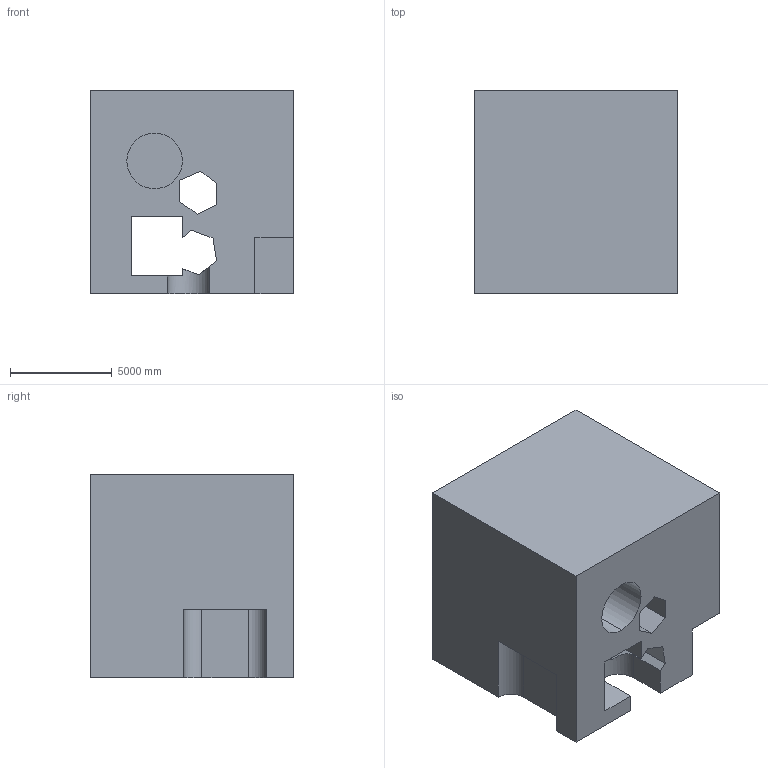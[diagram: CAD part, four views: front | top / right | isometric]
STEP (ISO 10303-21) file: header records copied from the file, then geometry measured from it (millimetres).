
FILE_DESCRIPTION (( 'STEP AP203' ), '1' );
FILE_NAME ('604.STEP', '2022-07-29T12:02:54', ( 'user' ), ( '' ), 'SwSTEP 2.0', 'SolidWorks 2021', '' );
FILE_SCHEMA (( 'CONFIG_CONTROL_DESIGN' ));
Length unit declared in the file: centimetre
Products named in the file (1): 604
Bounding box: 10000 x 10000 x 10000 mm (x, y, z)
Volume: 781931691290 mm3; surface area: 841433942.8 mm2
Topology: 1 solids, 1 shells, 35 faces, 99 edges, 66 vertices
Faces by surface type: plane 30, cylinder 5
Entity records: 1208 total; most frequent: CARTESIAN_POINT 207, ORIENTED_EDGE 198, DIRECTION 179, EDGE_CURVE 99, LINE 87, VECTOR 87, VERTEX_POINT 66, AXIS2_PLACEMENT_3D 46
